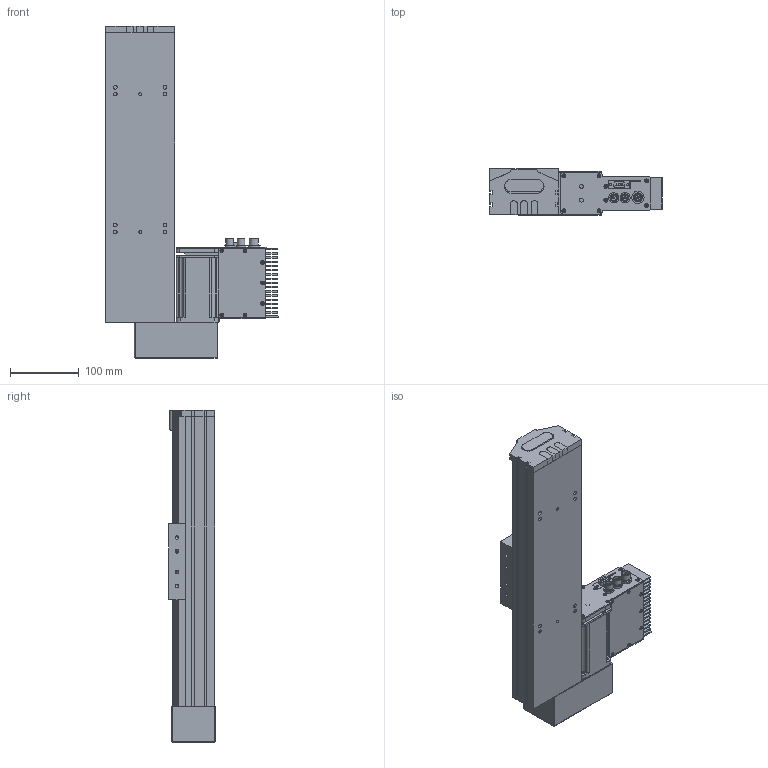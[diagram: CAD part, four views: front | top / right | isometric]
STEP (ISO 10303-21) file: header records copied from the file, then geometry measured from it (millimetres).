
FILE_DESCRIPTION (( 'STEP AP203' ), '1' );
FILE_NAME ('S 10 TSH BR S200.STEP', '2012-09-04T13:16:22', ( 'Conseil Régional Haute-Normandie' ), ( 'Conseil Régional Haute-Normandie' ), 'SwSTEP 2.0', 'SolidWorks 2010', '' );
FILE_SCHEMA (( 'CONFIG_CONTROL_DESIGN' ));
Length unit declared in the file: millimetre
Products named in the file (25): palette tbn2; Pièce2_Default; Assem1_7; Moteur 60BLDC90A_3; Couvercle_3; Radiateur profil_X2_00E9_X0_ 100x25_3; Colonnette ronde_3; T_X2_00F4_X0_le Arri_X2_00E8_X0_re_5; S 10 TSH BR S200; axe420_Default; piece_plastique remplieTSH_Default; embout_modifié; remplir_Default; T_X2_00F4_X0_le contre le moteur_5; BU41 Carte Alimentation P05_3; Colonnette_3; BU45 Carte d''axe A11_5; T_X2_00F4_X0_le fond_3; Connecteur rond D10 3cts_5; Connecteur rond D12 4cts_5; Sub D 9cts 90_X2_00B_X0__3; T_X2_00F4_X0_le lat_X2_00E9_X0_rale_5; Vis TF 3 torkx_1_1; renvoie LH2_Default; Vis TF 3 torkx
Assembly tree (55 placements, depth 3):
  S 10 TSH BR S200
    Vis TF 3 torkx  x7
    Assem1_7
      Colonnette_3  x2
      Couvercle_3
      Connecteur rond D10 3cts_5  x2
      Vis TF 3 torkx_1_1  x21
      BU45 Carte d''axe A11_5
      Sub D 9cts 90_X2_00B_X0__3
      Colonnette ronde_3
      T_X2_00F4_X0_le lat_X2_00E9_X0_rale_5  x2
      Connecteur rond D12 4cts_5
      T_X2_00F4_X0_le contre le moteur_5
      T_X2_00F4_X0_le fond_3
      Radiateur profil_X2_00E9_X0_ 100x25_3
      T_X2_00F4_X0_le Arri_X2_00E8_X0_re_5
      BU41 Carte Alimentation P05_3
      Moteur 60BLDC90A_3
    axe420_Default
    piece_plastique remplieTSH_Default
      Pièce2_Default
      remplir_Default  x3
      embout_modifié
    renvoie LH2_Default
    palette tbn2
Bounding box: 250.67 x 67.49 x 482 mm (x, y, z)
Volume: 2928368 mm3; surface area: 522720.3 mm2
Topology: 53 solids, 53 shells, 1948 faces, 4966 edges, 3230 vertices
Faces by surface type: plane 918, cylinder 859, cone 164, sphere 4, torus 3
Entity records: 38041 total; most frequent: CARTESIAN_POINT 6376, DIRECTION 6181, ORIENTED_EDGE 5624, EDGE_CURVE 2812, AXIS2_PLACEMENT_3D 2260, VERTEX_POINT 1842, LINE 1661, VECTOR 1661
